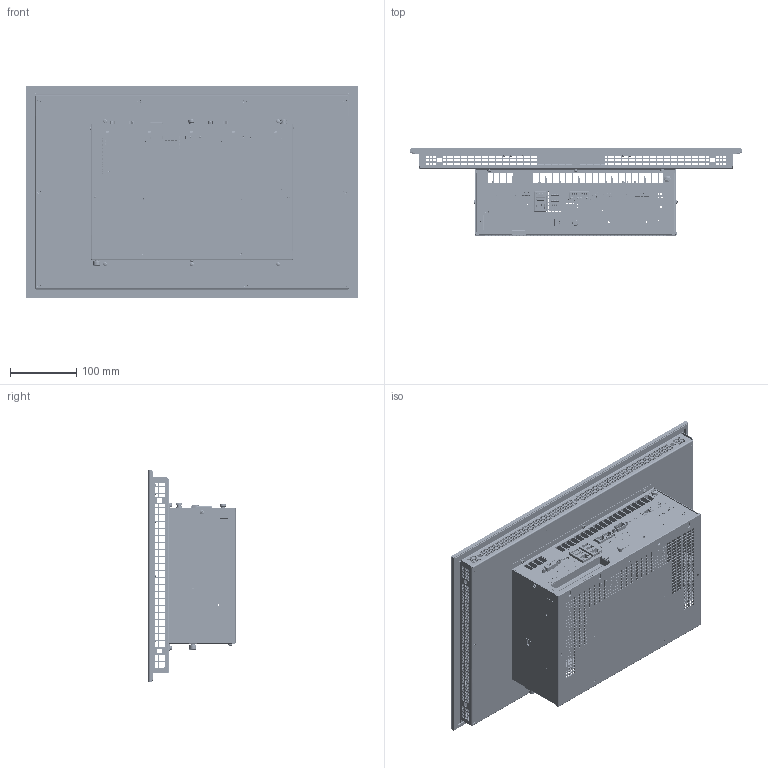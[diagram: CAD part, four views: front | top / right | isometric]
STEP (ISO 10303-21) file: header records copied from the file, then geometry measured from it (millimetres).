
FILE_DESCRIPTION (( 'STEP AP214' ), '1' );
FILE_NAME ('C6P34-Panel_185W_Cap_S1.STEP', '2019-09-20T15:22:56', ( '' ), ( '' ), 'SwSTEP 2.0', 'SolidWorks 2018', '' );
FILE_SCHEMA (( 'AUTOMOTIVE_DESIGN' ));
Length unit declared in the file: millimetre
Products named in the file (185): perni_filettati.prt; 66320015; 14300025; 59702267; 55455080.prt; 69111027; piazzuola_de800_di370; 21509026; 48000076.prt; 65720030; 69111028; 55202070; 7397_227; 51524089; 56636589.asm; 66320016; 57936013; 58702102; 21614000; 23330039; 65720029; 66320001; 56600330(2)^56600330; 21408088; 21404036; 21410056; 65720078; 69112004; 21410046; 58502114; 62920009; D02201701; 62920002; 7359_056; 58102117; 21405029; 21410015; 55600010^56600330(2)_56600330; 57902482; 59302439_Default<A macchina>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
Assembly tree (137 placements, depth 6):
  perni_filettati.prt
  66320015
  14300025
  69111027
  65720030
Bounding box: 503 x 132 x 320.5 mm (x, y, z)
Volume: 1429431.8 mm3; surface area: 2021834.2 mm2
Topology: 225 solids, 245 shells, 28248 faces, 79744 edges, 52337 vertices
Faces by surface type: plane 22297, cylinder 4584, bspline 725, cone 545, torus 77, sphere 20
Full cylindrical faces by diameter (mm): 0.3 x9, 0.434 x1, 0.6 x30, 0.65 x6, 0.7 x165, 0.8 x36, 0.85 x66, 0.9 x175, 0.95 x11, 1 x119, 1.1 x3, 1.2 x10, 1.32 x2, 1.35 x4, 1.4 x8, 1.5 x6, 1.6 x7, 1.7 x4, 1.8 x3, 1.9 x4, 1.95 x4, 2 x1, 2.05 x1, 2.3 x18, 2.4 x9, 2.5 x32, 2.6 x5, 2.8 x3, 2.874 x1, 3 x62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
Entity records: 844424 total; most frequent: CARTESIAN_POINT 175115, ORIENTED_EDGE 138548, DIRECTION 121880, EDGE_CURVE 69664, VECTOR 59180, LINE 59180, VERTEX_POINT 46420, EDGE_LOOP 32619
